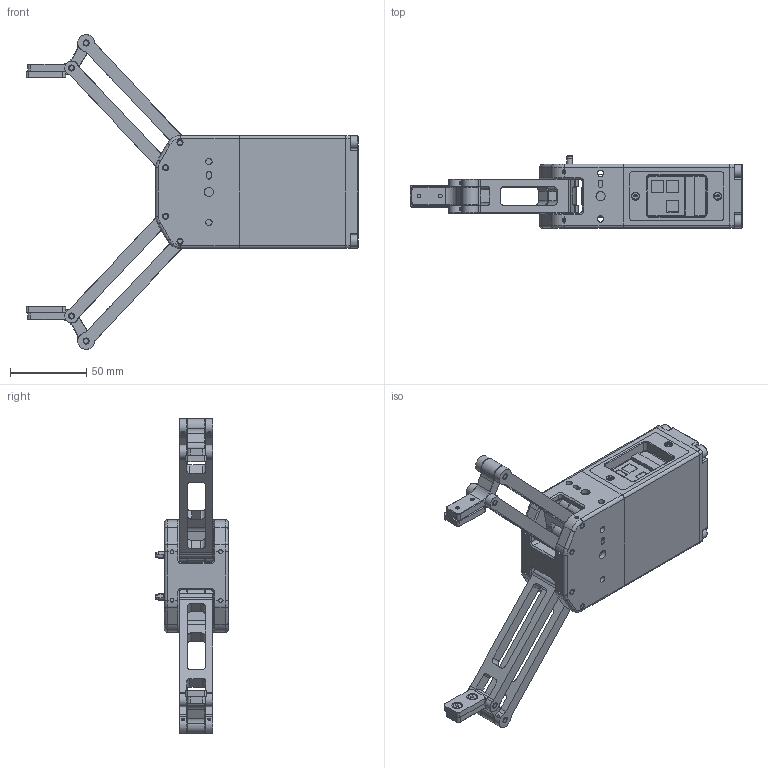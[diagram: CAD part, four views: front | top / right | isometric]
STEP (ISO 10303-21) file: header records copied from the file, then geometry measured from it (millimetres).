
FILE_DESCRIPTION (( 'STEP AP203' ), '1' );
FILE_NAME ('CHY150-¶Â¦â.STEP', '2020-02-19T09:11:24', ( '' ), ( '' ), 'SwSTEP 2.0', 'SolidWorks 2019', '' );
FILE_SCHEMA (( 'CONFIG_CONTROL_DESIGN' ));
Length unit declared in the file: millimetre
Products named in the file (2): CHY150-黑色
Bounding box: 218.22 x 47.6 x 206.91 mm (x, y, z)
Surface area: 76235.4 mm2 (no closed solid volume)
Topology: 0 solids, 76 shells, 739 faces, 2373 edges, 1638 vertices
Faces by surface type: plane 365, cylinder 233, cone 121, bspline 20
Full cylindrical faces by diameter (mm): 2.013 x4, 2.459 x10, 4 x18, 4.134 x12, 4.7 x2, 5.54 x4, 6 x5, 8.5 x4
Entity records: 27336 total; most frequent: CARTESIAN_POINT 7122, DIRECTION 4188, ORIENTED_EDGE 3610, EDGE_CURVE 2223, VERTEX_POINT 1586, AXIS2_PLACEMENT_3D 1436, VECTOR 1316, LINE 1316
